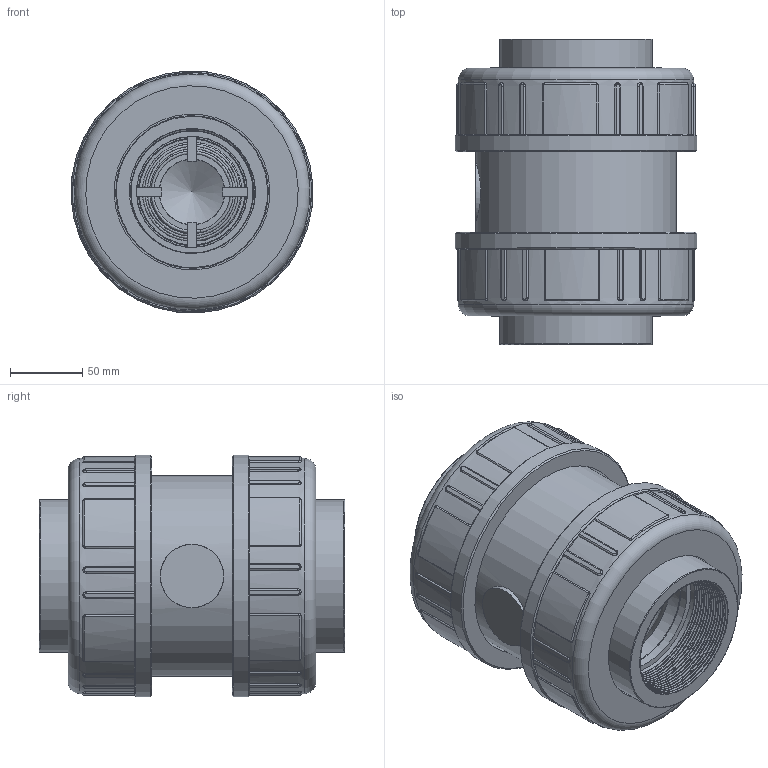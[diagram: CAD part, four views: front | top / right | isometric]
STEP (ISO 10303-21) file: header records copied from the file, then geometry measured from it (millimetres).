
FILE_DESCRIPTION(/* description */ (''),/* implementation_level */ '2;1');
FILE_NAME(/* name */ 'C:\Users\POLYPIPE\Desktop\DATASET INVENTOR\LIBRERIA EFFAST\3D_VALVOLE\3D_VALVOLE NON RITORNO\3D_CV\3D_CERCVE\3D_CERCVE090I.stp',/* time_stamp */ '2018-01-24T17:37:04+01:00',/* author */ ('POLYPIPE'),/* organization */ (''),/* preprocessor_version */ 'ST-DEVELOPER v16.1',/* originating_system */ 'Autodesk Inventor 2016',/* authorisation */ '');
FILE_SCHEMA (('CONFIG_CONTROL_DESIGN'));
Products named in the file (1): 3D_CERCVE090I
Bounding box: 167.89 x 212 x 167.89 mm (x, y, z)
Volume: 2070666.5 mm3; surface area: 434713.1 mm2
Topology: 3 solids, 4 shells, 525 faces, 1316 edges, 826 vertices
Faces by surface type: plane 165, bspline 156, cylinder 150, torus 41, cone 13
Full cylindrical faces by diameter (mm): 74 x1, 76.8 x2, 77 x2, 81.4 x1, 81.6 x1, 81.8 x1, 84.926 x2, 91.8 x1, 93.1 x1, 93.6 x1, 95 x1, 106 x2, 108.2 x2, 113.2 x1, 120.6 x1, 121.7 x1, 123.5 x1, 124.5 x1, 133 x2, 139.5 x1, 142.5 x2, 163.5 x2, 168 x2
Entity records: 70570 total; most frequent: CARTESIAN_POINT 58442, ORIENTED_EDGE 2484, DIRECTION 2147, EDGE_CURVE 1240, VERTEX_POINT 817, AXIS2_PLACEMENT_3D 808, EDGE_LOOP 627, LINE 531
